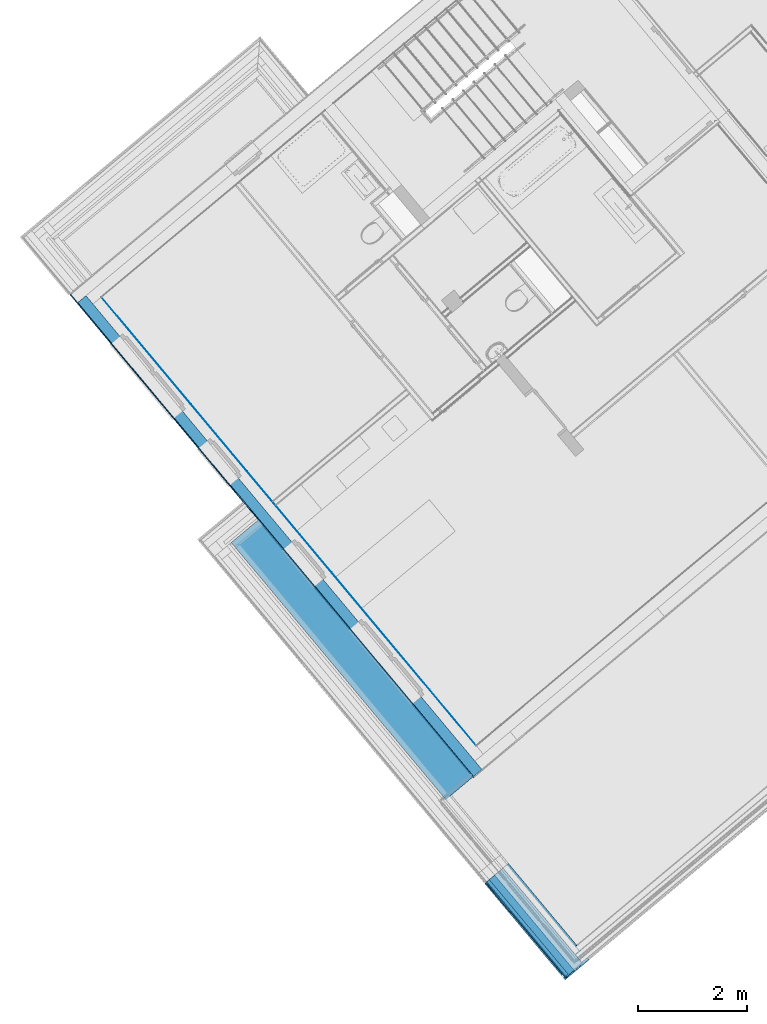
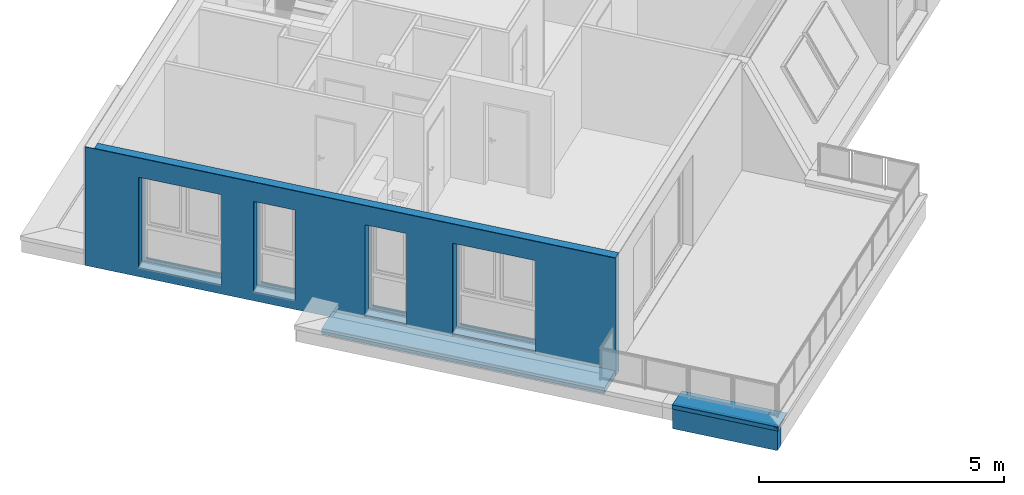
# One storey, part 14 of 58: 12 building element parts, 4 openings, 3 elements without a shape of their own.
"""IFC4 building model written with IfcOpenShell, lengths in metres."""

from ifc_helpers import new_model, entity, si_unit, converted_unit, derived_unit, direction, frame, origin_with_axes, place, context, subcontext, project, spatial, polygons, material, type_object, element, aggregate, save


model = new_model("IFC4")

# Units and contexts
model_context = context("Model", 3, precision=1e-05, world=origin_with_axes(), true_north=direction((0.0, 1.0)))
body_context = subcontext(model_context, "Body", "Model", "MODEL_VIEW")
ifc_project = project(units=[si_unit("LENGTHUNIT", "METRE"), si_unit("AREAUNIT", "SQUARE_METRE"), si_unit("VOLUMEUNIT", "CUBIC_METRE"), converted_unit("PLANEANGLEUNIT", "DEGREE", entity("IfcPlaneAngleMeasure", 0.0174532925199), si_unit("PLANEANGLEUNIT", "RADIAN"), dimensions=[0, 0, 0, 0, 0, 0, 0]), converted_unit("TIMEUNIT", "Year", entity("IfcTimeMeasure", 31556926.0), si_unit("TIMEUNIT", "SECOND"), dimensions=[0, 0, 1, 0, 0, 0, 0]), si_unit("MASSUNIT", "GRAM", prefix="KILO"), si_unit("THERMODYNAMICTEMPERATUREUNIT", "DEGREE_CELSIUS"), si_unit("LUMINOUSINTENSITYUNIT", "LUMEN"), si_unit("ENERGYUNIT", "JOULE", prefix="MEGA"), derived_unit("THERMALCONDUCTANCEUNIT", [(si_unit("POWERUNIT", "WATT"), 1), (si_unit("LENGTHUNIT", "METRE"), -1), (si_unit("THERMODYNAMICTEMPERATUREUNIT", "KELVIN"), -1)]), derived_unit("SPECIFICHEATCAPACITYUNIT", [(si_unit("ENERGYUNIT", "JOULE"), 1), (si_unit("MASSUNIT", "GRAM", prefix="KILO"), -1), (si_unit("THERMODYNAMICTEMPERATUREUNIT", "KELVIN"), -1)]), derived_unit("MASSDENSITYUNIT", [(si_unit("MASSUNIT", "GRAM", prefix="KILO"), 1), (si_unit("VOLUMEUNIT", "CUBIC_METRE"), -1)])], contexts=[model_context])

# Site, building, storey
site_placement = place(None, frame((-0.00153261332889, -0.00661245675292, 0.0), z_axis=(0.0, 0.0, 1.0), x_axis=(1.0, 0.0, 0.0)))
site = spatial("IfcSite", under=ifc_project, at=site_placement, Name="Site", CompositionType="ELEMENT")
building_placement = place(site_placement, origin_with_axes())
building = spatial("IfcBuilding", under=site, at=building_placement, Name="Building", CompositionType="ELEMENT")
storey_placement = place(building_placement, frame((0.0, 0.0, 5.7), z_axis=(0.0, 0.0, 1.0), x_axis=(1.0, 0.0, 0.0)))
storey = spatial("IfcBuildingStorey", under=building, at=storey_placement, Name="DG1", CompositionType="ELEMENT", Elevation=5.7)

# Wall, openings, building element parts
wall_type_1 = type_object("IfcWallType", Name="AW EG 420", PredefinedType="NOTDEFINED")
wall_1_placement = place(storey_placement, frame((-8.68307438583, 19.0183290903, 0.0), z_axis=(0.0, 0.0, 1.0), x_axis=(0.641209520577, -0.767365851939, 0.0)))
wall_1 = element("IfcWall", 1, at=wall_1_placement, inside=storey, type_object=wall_type_1, Name="Wand-002", PredefinedType="NOTDEFINED")
opening_1_placement = place(wall_1_placement, frame((6.56443580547, 0.0, 0.22), z_axis=(0.0, 0.0, 1.0), x_axis=(1.0, 0.0, 0.0)))
element("IfcOpeningElement", 2, at=opening_1_placement, cuts=wall_1, Name="Fenster-001", context=body_context, identifier="Reference", shape_type="Tessellation", body=[
    polygons([(0.45, 0.215, 0.0), (0.45, 0.215, 2.26), (0.45, -5.69878587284, 2.26), (0.45, -5.69878587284, 0.0), (0.45, 6.11878587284, 0.0), (0.45, 6.11878587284, 2.26), (-0.45, 0.215, 2.26), (-0.45, -5.69878587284, 2.26), (-0.45, 6.11878587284, 2.26), (-0.45, -5.69878587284, 0.0), (-0.45, 0.215, 0.0), (-0.45, 6.11878587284, 0.0)], [[[1, 2, 3, 4]], [[2, 1, 5, 6]], [[7, 8, 3, 2, 6, 9]], [[8, 10, 4, 3]], [[1, 4, 10, 11, 12, 5]], [[6, 5, 12, 9]], [[7, 11, 10, 8]], [[11, 7, 9, 12]]], closed=True),
])
opening_2_placement = place(wall_1_placement, frame((8.92445021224, 0.0, 0.22), z_axis=(0.0, 0.0, 1.0), x_axis=(1.0, 0.0, 0.0)))
element("IfcOpeningElement", 3, at=opening_2_placement, cuts=wall_1, Name="Fenster-001", context=body_context, identifier="Reference", shape_type="Tessellation", body=[
    polygons([(0.9, 0.215, 0.0), (0.9, 0.215, 2.26), (0.9, -5.69878587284, 2.26), (0.9, -5.69878587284, 0.0), (0.9, 6.11878587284, 0.0), (0.9, 6.11878587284, 2.26), (-0.9, 0.215, 2.26), (-0.9, -5.69878587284, 2.26), (-0.9, 6.11878587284, 2.26), (-0.9, -5.69878587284, 0.0), (-0.9, 0.215, 0.0), (-0.9, 6.11878587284, 0.0)], [[[1, 2, 3, 4]], [[2, 1, 5, 6]], [[7, 8, 3, 2, 6, 9]], [[8, 10, 4, 3]], [[1, 4, 10, 11, 12, 5]], [[6, 5, 12, 9]], [[7, 11, 10, 8]], [[11, 7, 9, 12]]], closed=True),
])
opening_3_placement = place(wall_1_placement, frame((4.13955898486, 0.0, 0.22), z_axis=(0.0, 0.0, 1.0), x_axis=(1.0, 0.0, 0.0)))
element("IfcOpeningElement", 4, at=opening_3_placement, cuts=wall_1, Name="Fenster-001", context=body_context, identifier="Reference", shape_type="Tessellation", body=[
    polygons([(0.45, 0.215, 0.0), (0.45, 0.215, 2.26), (0.45, -5.69878587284, 2.26), (0.45, -5.69878587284, 0.0), (0.45, 6.11878587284, 0.0), (0.45, 6.11878587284, 2.26), (-0.45, 0.215, 2.26), (-0.45, -5.69878587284, 2.26), (-0.45, 6.11878587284, 2.26), (-0.45, -5.69878587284, 0.0), (-0.45, 0.215, 0.0), (-0.45, 6.11878587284, 0.0)], [[[1, 2, 3, 4]], [[2, 1, 5, 6]], [[7, 8, 3, 2, 6, 9]], [[8, 10, 4, 3]], [[1, 4, 10, 11, 12, 5]], [[6, 5, 12, 9]], [[7, 11, 10, 8]], [[11, 7, 9, 12]]], closed=True),
])
opening_4_placement = place(wall_1_placement, frame((2.0854909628, 0.0, 0.22), z_axis=(0.0, 0.0, 1.0), x_axis=(1.0, 0.0, 0.0)))
element("IfcOpeningElement", 5, at=opening_4_placement, cuts=wall_1, Name="Fenster-001", context=body_context, identifier="Reference", shape_type="Tessellation", body=[
    polygons([(0.9, 0.215, 0.0), (0.9, 0.215, 2.26), (0.9, -5.69878587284, 2.26), (0.9, -5.69878587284, 0.0), (0.9, 6.11878587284, 0.0), (0.9, 6.11878587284, 2.26), (-0.9, 0.215, 2.26), (-0.9, -5.69878587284, 2.26), (-0.9, 6.11878587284, 2.26), (-0.9, -5.69878587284, 0.0), (-0.9, 0.215, 0.0), (-0.9, 6.11878587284, 0.0)], [[[1, 2, 3, 4]], [[2, 1, 5, 6]], [[7, 8, 3, 2, 6, 9]], [[8, 10, 4, 3]], [[1, 4, 10, 11, 12, 5]], [[6, 5, 12, 9]], [[7, 11, 10, 8]], [[11, 7, 9, 12]]], closed=True),
])
ifc_material_1 = material(Name="Zementputz")
building_element_part_1_placement = place(wall_1_placement, origin_with_axes())
building_element_part_1 = element("IfcBuildingElementPart", 6, at=building_element_part_1_placement, material=ifc_material_1, Name="Zementputz", PredefinedType="NOTDEFINED", context=body_context, shape_type="Tessellation", body=[
    polygons([(11.1645998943, 0.415, 2.76), (0.42, 0.415, 2.76), (0.42, 0.415, 0.0), (11.1645998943, 0.415, 0.0), (7.01443580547, 0.415, 0.22), (6.11443580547, 0.415, 0.22), (6.11443580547, 0.415, 2.48), (7.01443580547, 0.415, 2.48), (9.82445021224, 0.415, 2.48), (9.82445021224, 0.415, 0.22), (8.02445021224, 0.415, 0.22), (8.02445021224, 0.415, 2.48), (3.68955898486, 0.415, 2.48), (4.58955898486, 0.415, 2.48), (4.58955898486, 0.415, 0.22), (3.68955898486, 0.415, 0.22), (1.1854909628, 0.415, 0.22), (1.1854909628, 0.415, 2.48), (2.9854909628, 0.415, 2.48), (2.9854909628, 0.415, 0.22), (11.1645966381, 0.42, 2.76), (0.42, 0.42, 2.76), (0.42, 0.42, 0.0), (11.1645966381, 0.42, 0.0), (7.01443580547, 0.42, 0.22), (6.11443580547, 0.42, 0.22), (6.11443580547, 0.42, 2.48), (7.01443580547, 0.42, 2.48), (9.82445021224, 0.42, 2.48), (9.82445021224, 0.42, 0.22), (8.02445021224, 0.42, 0.22), (8.02445021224, 0.42, 2.48), (4.58955898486, 0.42, 2.48), (3.68955898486, 0.42, 2.48), (4.58955898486, 0.42, 0.22), (3.68955898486, 0.42, 0.22), (1.1854909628, 0.42, 0.22), (1.1854909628, 0.42, 2.48), (2.9854909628, 0.42, 2.48), (2.9854909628, 0.42, 0.22)], [[[1, 2, 3, 4], [5, 6, 7, 8], [9, 10, 11, 12], [13, 14, 15, 16], [17, 18, 19, 20]], [[1, 21, 22, 2]], [[2, 22, 23, 3]], [[24, 4, 3, 23]], [[21, 1, 4, 24]], [[5, 25, 26, 6]], [[6, 26, 27, 7]], [[7, 27, 28, 8]], [[8, 28, 25, 5]], [[10, 9, 29, 30]], [[11, 10, 30, 31]], [[12, 11, 31, 32]], [[9, 12, 32, 29]], [[33, 14, 13, 34]], [[35, 15, 14, 33]], [[36, 16, 15, 35]], [[34, 13, 16, 36]], [[37, 38, 18, 17]], [[38, 39, 19, 18]], [[39, 40, 20, 19]], [[40, 37, 17, 20]], [[22, 21, 24, 23], [27, 26, 25, 28], [29, 32, 31, 30], [35, 33, 34, 36], [37, 40, 39, 38]]], closed=True),
])
ifc_material_2 = material(Name="EPS 1")
building_element_part_2_placement = place(wall_1_placement, origin_with_axes())
building_element_part_2 = element("IfcBuildingElementPart", 7, at=building_element_part_2_placement, material=ifc_material_2, Name="EPS 1", PredefinedType="NOTDEFINED", context=body_context, shape_type="Tessellation", body=[
    polygons([(11.5648604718, 0.015, 0.0), (11.5648604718, 0.015, 2.96), (0.215, 0.015, 2.96), (0.215, 0.015, 0.0), (7.01443580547, 0.015, 0.22), (6.11443580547, 0.015, 0.22), (6.11443580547, 0.015, 2.48), (7.01443580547, 0.015, 2.48), (9.82445021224, 0.015, 2.48), (9.82445021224, 0.015, 0.22), (8.02445021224, 0.015, 0.22), (8.02445021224, 0.015, 2.48), (3.68955898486, 0.015, 2.48), (4.58955898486, 0.015, 2.48), (4.58955898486, 0.015, 0.22), (3.68955898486, 0.015, 0.22), (1.1854909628, 0.015, 0.22), (1.1854909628, 0.015, 2.48), (2.9854909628, 0.015, 2.48), (2.9854909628, 0.015, 0.22), (11.5647302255, 0.215, 0.0), (11.5647302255, 0.215, 2.96), (0.215, 0.215, 2.96), (0.215, 0.215, 0.0), (7.01443580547, 0.215, 0.22), (6.11443580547, 0.215, 0.22), (6.11443580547, 0.215, 2.48), (7.01443580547, 0.215, 2.48), (9.82445021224, 0.215, 2.48), (9.82445021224, 0.215, 0.22), (8.02445021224, 0.215, 0.22), (8.02445021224, 0.215, 2.48), (4.58955898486, 0.215, 2.48), (3.68955898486, 0.215, 2.48), (4.58955898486, 0.215, 0.22), (3.68955898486, 0.215, 0.22), (1.1854909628, 0.215, 0.22), (1.1854909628, 0.215, 2.48), (2.9854909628, 0.215, 2.48), (2.9854909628, 0.215, 0.22)], [[[1, 2, 3, 4], [5, 6, 7, 8], [9, 10, 11, 12], [13, 14, 15, 16], [17, 18, 19, 20]], [[1, 21, 22, 2]], [[2, 22, 23, 3]], [[23, 24, 4, 3]], [[21, 1, 4, 24]], [[5, 25, 26, 6]], [[6, 26, 27, 7]], [[7, 27, 28, 8]], [[8, 28, 25, 5]], [[10, 9, 29, 30]], [[11, 10, 30, 31]], [[12, 11, 31, 32]], [[9, 12, 32, 29]], [[33, 14, 13, 34]], [[35, 15, 14, 33]], [[36, 16, 15, 35]], [[34, 13, 16, 36]], [[37, 38, 18, 17]], [[38, 39, 19, 18]], [[39, 40, 20, 19]], [[40, 37, 17, 20]], [[22, 21, 24, 23], [27, 26, 25, 28], [29, 32, 31, 30], [35, 33, 34, 36], [37, 40, 39, 38]]], closed=True),
])
building_element_part_3_placement = place(wall_1_placement, origin_with_axes())
building_element_part_3 = element("IfcBuildingElementPart", 8, at=building_element_part_3_placement, material=ifc_material_1, Name="Zementputz", PredefinedType="NOTDEFINED", context=body_context, shape_type="Tessellation", body=[
    polygons([(7.01443580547, 0.0, 2.48), (7.01443580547, 0.0, 0.22), (7.01443580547, 0.0, 0.15), (8.02445021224, 0.0, 0.15), (8.02445021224, 0.0, 0.22), (8.02445021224, 0.0, 2.48), (9.82445021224, 0.0, 2.48), (9.82445021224, 0.0, 0.22), (9.82445021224, 0.0, 0.15), (11.5798702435, 0.0, 0.15), (11.5798702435, 0.0, 2.96), (0.015, 0.0, 2.96), (0.015, 0.0, 0.0), (5.41075109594, 0.0, 0.0), (5.41075109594, 0.0, 0.15), (6.11443580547, 0.0, 0.15), (6.11443580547, 0.0, 0.22), (6.11443580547, 0.0, 2.48), (3.68955898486, 0.0, 2.48), (4.58955898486, 0.0, 2.48), (4.58955898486, 0.0, 0.22), (3.68955898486, 0.0, 0.22), (1.1854909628, 0.0, 0.22), (1.1854909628, 0.0, 2.48), (2.9854909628, 0.0, 2.48), (2.9854909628, 0.0, 0.22), (7.01443580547, 0.0150000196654, 2.48), (7.01443580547, 0.0150000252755, 0.22), (7.01443580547, 0.0150000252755, 0.15), (8.02445021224, 0.0150000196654, 0.15), (8.02445021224, 0.0150000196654, 0.22), (8.02445021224, 0.0150000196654, 2.48), (9.82445021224, 0.0150000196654, 2.48), (9.82445021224, 0.0150000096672, 0.22), (9.82445021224, 0.0150000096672, 0.15), (11.579860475, 0.015, 0.15), (11.579860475, 0.015, 2.96), (0.015, 0.015, 2.96), (0.015, 0.015, 0.0), (5.41078870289, 0.0150000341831, 0.0), (5.41078870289, 0.0150000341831, 0.15), (6.11443580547, 0.0150000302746, 0.15), (6.11443580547, 0.0150000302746, 0.22), (6.11443580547, 0.0150000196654, 2.48), (4.58955898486, 0.0150000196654, 2.48), (3.68955898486, 0.0150000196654, 2.48), (4.58955898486, 0.0150000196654, 0.22), (3.68955898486, 0.0150000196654, 0.22), (1.1854909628, 0.0150000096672, 0.22), (1.1854909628, 0.0150000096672, 2.48), (2.9854909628, 0.0150000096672, 2.48), (2.9854909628, 0.0150000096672, 0.22)], [[[1, 2, 3, 4, 5, 6, 7, 8, 9, 10, 11, 12, 13, 14, 15, 16, 17, 18], [19, 20, 21, 22], [23, 24, 25, 26]], [[1, 27, 28, 2]], [[3, 2, 28, 29]], [[30, 4, 3, 29]], [[4, 30, 31, 5]], [[6, 5, 31, 32]], [[7, 6, 32, 33]], [[8, 7, 33, 34]], [[35, 9, 8, 34]], [[9, 35, 36, 10]], [[10, 36, 37, 11]], [[11, 37, 38, 12]], [[38, 39, 13, 12]], [[40, 14, 13, 39]], [[41, 15, 14, 40]], [[42, 16, 15, 41]], [[42, 43, 17, 16]], [[17, 43, 44, 18]], [[18, 44, 27, 1]], [[45, 20, 19, 46]], [[47, 21, 20, 45]], [[48, 22, 21, 47]], [[46, 19, 22, 48]], [[49, 50, 24, 23]], [[50, 51, 25, 24]], [[51, 52, 26, 25]], [[52, 49, 23, 26]], [[38, 37, 36, 35, 34, 33, 32, 31, 30, 29, 28, 27, 44, 43, 42, 41, 40, 39], [47, 45, 46, 48], [49, 52, 51, 50]]], closed=True),
])
aggregate(wall_1, [building_element_part_1, building_element_part_2, building_element_part_3])

# Wall, building element parts
wall_type_2 = type_object("IfcWallType", Name="Balkon Dämmung runter 574 x 610", PredefinedType="NOTDEFINED")
wall_2_placement = place(storey_placement, frame((-0.869246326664, 8.34153645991, -0.2), z_axis=(0.0, 0.0, 1.0), x_axis=(0.640952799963, -0.767580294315, 0.0)))
wall_2 = element("IfcWall", 9, at=wall_2_placement, inside=storey, type_object=wall_type_2, Name="Wand-004", PredefinedType="NOTDEFINED")
ifc_material_3 = material(Name="Stahl")
building_element_part_4_placement = place(wall_2_placement, origin_with_axes())
building_element_part_4 = element("IfcBuildingElementPart", 10, at=building_element_part_4_placement, material=ifc_material_3, Name="Stahl", PredefinedType="NOTDEFINED", context=body_context, shape_type="Tessellation", body=[
    polygons([(2.31177297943, -0.241500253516, 0.575979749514), (2.31177213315, -0.241500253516, 0.510056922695), (2.31177113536, -0.239536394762, 0.510056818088), (2.31177146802, -0.238182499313, 0.511410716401), (2.3117723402, -0.240097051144, 0.511410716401), (2.31177158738, -0.240146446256, 0.51136132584), (2.31177236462, -0.240150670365, 0.575979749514), (2.31172276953, -0.241500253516, 0.510007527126), (2.31042339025, -0.241500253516, 0.575979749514), (2.25910484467, -0.241500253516, 0.575979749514), (2.19919057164, -0.241500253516, 0.575979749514), (2.19919057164, -0.241500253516, 0.57982217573), (2.19919057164, -0.241500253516, 0.581921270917), (2.25907296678, -0.241500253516, 0.581921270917), (2.31042377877, -0.241500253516, 0.581921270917), (2.31177297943, -0.241500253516, 0.581921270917), (2.31177297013, -0.241500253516, 0.608602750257), (2.31042551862, -0.241500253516, 0.608602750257), (2.30915944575, -0.241500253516, 0.608602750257), (2.31042552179, -0.241500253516, 0.60865214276), (2.31177297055, -0.241500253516, 0.60865214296), (2.31177298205, -0.241500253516, 0.610006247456), (-8.02066887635e-05, -0.241500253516, 0.610006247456), (-8.02066887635e-05, -0.241500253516, 0.510007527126), (2.3108152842, -0.240592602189, 0.509099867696), (2.31081523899, -0.240493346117, 0.509099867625), (2.28406254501, -0.240493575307, 0.509099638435), (2.28406256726, -0.240542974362, 0.509050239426), (-8.02066887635e-05, -0.240542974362, 0.509050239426), (-8.02066887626e-05, -0.231373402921, 0.518219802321), (2.3036054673, -0.23137340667, 0.518219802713), (2.31041765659, -0.238182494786, 0.511410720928), (2.31041852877, -0.240097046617, 0.511410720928), (-8.02066887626e-05, -0.232283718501, 0.519224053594), (-8.02066887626e-05, -0.240146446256, 0.51136132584), (2.30260163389, -0.23228372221, 0.519224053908), (2.19918995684, -0.240150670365, 0.575979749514), (2.25910422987, -0.240150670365, 0.575979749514), (2.31042277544, -0.240150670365, 0.575979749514), (-8.02066887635e-05, -0.240152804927, 0.608602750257), (2.30915883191, -0.240152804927, 0.608602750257), (2.31042490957, -0.240152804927, 0.608602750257), (2.31177219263, -0.240152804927, 0.608602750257), (2.3117723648, -0.240151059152, 0.581921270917), (2.31042316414, -0.240151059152, 0.581921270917), (2.25907235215, -0.240151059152, 0.581921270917), (2.19918995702, -0.240151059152, 0.581921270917), (2.19918995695, -0.240150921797, 0.57982217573), (2.30914178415, -0.202730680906, 0.608602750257), (2.31040848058, -0.204095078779, 0.60865214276), (2.31175593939, -0.204095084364, 0.60865214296), (2.30832403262, -0.201849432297, 0.608570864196), (1.95664024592, 0.149654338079, 0.5958462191), (1.95655714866, 0.332051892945, 0.589243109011), (0.000110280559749, 0.332051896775, 0.589243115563), (-6.78303214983e-05, -0.239287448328, 0.608571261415), (2.28406258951, -0.240592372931, 0.509099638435), (2.30834108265, -0.239276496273, 0.608570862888), (1.95665729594, 0.11222723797, 0.5958462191), (1.95655776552, 0.330698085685, 0.587937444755), (1.95655714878, 0.332051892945, 0.587937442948), (0.000110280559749, 0.332051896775, 0.489652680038), (1.95655714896, 0.332051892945, 0.586106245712), (1.95655714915, 0.332051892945, 0.584015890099), (1.95655714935, 0.332051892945, 0.581921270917), (1.95655714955, 0.332051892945, 0.579822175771), (1.95655714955, 0.332051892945, 0.575979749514), (1.95655714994, 0.332051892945, 0.575576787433), (1.95655715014, 0.332051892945, 0.573880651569), (1.95655715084, 0.332051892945, 0.567947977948), (1.9565571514, 0.332051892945, 0.560000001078), (1.95655715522, 0.332051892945, 0.519273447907), (1.95655715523, 0.332051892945, 0.519224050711), (1.95655715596, 0.332051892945, 0.511410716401), (1.95655715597, 0.332051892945, 0.51136132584), (1.95655715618, 0.332051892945, 0.509099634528), (1.95655715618, 0.332051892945, 0.509050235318), (1.9565571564, 0.332051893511, 0.506731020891), (1.95655715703, 0.332051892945, 0.499999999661), (1.95655715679, 0.332051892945, 0.498915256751), (1.95847171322, 0.332051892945, 0.498915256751), (1.95837870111, 0.332051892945, 0.498822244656), (1.95616062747, 0.332051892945, 0.496604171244), (1.96880428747, 0.332051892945, 0.496604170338), (1.96880428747, 0.332051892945, 0.491006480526), (1.96880428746, 0.33205189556, 0.489652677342), (0.000106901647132, 0.321878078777, 0.497911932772), (0.000107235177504, 0.32288233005, 0.498822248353), (0.000109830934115, 0.330698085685, 0.491006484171), (0.000109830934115, 0.330698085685, 0.587937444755), (0.000109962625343, 0.331094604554, 0.488695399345), (1.95655776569, 0.330698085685, 0.586106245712), (1.95655776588, 0.330698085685, 0.584015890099), (1.95655776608, 0.330698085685, 0.581921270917), (1.95655776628, 0.330698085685, 0.579822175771), (1.95655776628, 0.330698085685, 0.575979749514), (1.95655776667, 0.330698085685, 0.575576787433), (1.95655776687, 0.330698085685, 0.573880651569), (1.95655776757, 0.330698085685, 0.567947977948), (1.95655776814, 0.330698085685, 0.560000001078), (1.95655777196, 0.330698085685, 0.519273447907), (1.95655777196, 0.330698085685, 0.519224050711), (1.95655777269, 0.330698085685, 0.511410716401), (1.9565577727, 0.330698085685, 0.51136132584), (1.95655777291, 0.330698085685, 0.509099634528), (1.95655777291, 0.330698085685, 0.509050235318), (1.95655777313, 0.330698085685, 0.506731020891), (1.95655777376, 0.330698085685, 0.499999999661), (1.95655777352, 0.330698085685, 0.498915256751), (1.95847232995, 0.330698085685, 0.498915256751), (1.95837931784, 0.330698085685, 0.498822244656), (1.9561612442, 0.330698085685, 0.496604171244), (1.9688049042, 0.330698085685, 0.496604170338), (1.9688049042, 0.330698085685, 0.491006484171), (1.96880577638, 0.328783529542, 0.491006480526), (1.96880472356, 0.331094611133, 0.488695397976), (1.96880892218, 0.32187807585, 0.497911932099), (1.96880846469, 0.322882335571, 0.498822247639), (1.96880745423, 0.325100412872, 0.496604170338), (1.96880832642, 0.323185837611, 0.496604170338)], [[[1, 2, 3, 4, 5, 6, 7]], [[8, 2, 1, 9, 10, 11, 12, 13, 14, 15, 16, 17, 18, 19, 20, 21, 22, 23, 24]], [[2, 8, 25, 26, 3]], [[27, 28, 29, 30, 31, 32, 4, 3, 26]], [[5, 4, 32, 33]], [[34, 35, 6, 5, 33, 36]], [[37, 38, 39, 7, 6, 35, 40, 41, 42, 43, 44, 45, 46, 47, 48]], [[9, 1, 7, 39]], [[10, 9, 39, 38]], [[11, 10, 38, 37]], [[37, 48, 12, 11]], [[13, 12, 48, 47]], [[14, 13, 47, 46]], [[15, 14, 46, 45]], [[16, 15, 45, 44]], [[17, 16, 44, 43]], [[18, 17, 43, 42]], [[19, 18, 42, 41]], [[19, 41, 49, 50, 20]], [[21, 20, 50, 51]], [[22, 21, 51]], [[23, 22, 51, 50, 49, 52, 53, 54, 55]], [[29, 24, 23, 56, 40, 35, 34, 30]], [[28, 57, 25, 8, 24, 29]], [[57, 27, 26, 25]], [[57, 28, 27]], [[30, 34, 36, 31]], [[33, 32, 31, 36]], [[58, 41, 40, 56]], [[41, 58, 52, 49]], [[52, 58, 59, 53]], [[53, 59, 60, 61, 54]], [[62, 55, 54, 61, 63, 64, 65, 66, 67, 68, 69, 70, 71, 72, 73, 74, 75, 76, 77, 78, 79, 80, 81, 82, 83, 84, 85, 86]], [[87, 88, 89, 90, 56, 23, 55, 62, 91]], [[58, 56, 90, 60, 59]], [[60, 92, 63, 61]], [[92, 93, 64, 63]], [[93, 94, 65, 64]], [[94, 95, 66, 65]], [[95, 96, 67, 66]], [[96, 97, 68, 67]], [[97, 98, 69, 68]], [[98, 99, 70, 69]], [[99, 100, 71, 70]], [[100, 101, 72, 71]], [[101, 102, 73, 72]], [[102, 103, 74, 73]], [[103, 104, 75, 74]], [[104, 105, 76, 75]], [[105, 106, 77, 76]], [[106, 107, 78, 77]], [[107, 108, 79, 78]], [[108, 109, 80, 79]], [[80, 109, 110, 81]], [[110, 111, 82, 81]], [[112, 83, 82, 111]], [[83, 112, 113, 84]], [[114, 85, 84, 113]], [[114, 115, 116, 86, 85]], [[91, 62, 86, 116]], [[88, 87, 117, 118]], [[89, 88, 118, 119, 114]], [[90, 89, 114, 113, 112, 111, 110, 109, 108, 107, 106, 105, 104, 103, 102, 101, 100, 99, 98, 97, 96, 95, 94, 93, 92, 60]], [[87, 91, 116, 115, 120, 117]], [[115, 114, 119, 120]], [[120, 119, 118, 117]]], closed=True),
])
ifc_material_4 = material(Name="Holzwerkstoff")
building_element_part_5_placement = place(wall_2_placement, origin_with_axes())
building_element_part_5 = element("IfcBuildingElementPart", 11, at=building_element_part_5_placement, material=ifc_material_4, Name="Holzwerkstoff", PredefinedType="NOTDEFINED", context=body_context, shape_type="Tessellation", body=[
    polygons([(-6.30974915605e-05, -0.189984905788, 0.586106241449), (-8.02066887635e-05, -0.239999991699, 0.587852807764), (-8.02066887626e-05, -0.239276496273, 0.608570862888), (0.000109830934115, 0.330698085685, 0.587937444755), (0.000109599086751, 0.329999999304, 0.567947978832), (5.31755593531e-05, 0.160110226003, 0.573880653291), (3.32118436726e-05, 0.0999999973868, 0.575979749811), (-4.32169065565e-05, -0.130124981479, 0.584015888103), (2.25902712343, -0.189985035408, 0.586106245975), (2.30906485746, -0.239999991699, 0.587852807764), (2.30906195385, -0.239997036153, 0.587937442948), (2.30878564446, -0.239720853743, 0.595846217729), (2.30834108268, -0.239276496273, 0.608570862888), (2.30862531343, 0.112227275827, 0.595846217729), (2.30880197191, 0.330698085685, 0.587937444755), (2.30880492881, 0.330695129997, 0.587852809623), (2.2587899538, 0.330634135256, 0.586106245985), (2.19892996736, 0.330561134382, 0.584015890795), (2.13894792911, 0.330487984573, 0.581921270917), (2.07883772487, 0.330414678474, 0.579822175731), (1.96880500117, 0.330280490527, 0.575979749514), (1.95726578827, 0.330266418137, 0.575576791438), (2.07886140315, 0.33026641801, 0.575576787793), (2.07887086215, 0.330207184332, 0.573880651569), (2.07890394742, 0.329999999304, 0.567947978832), (2.07894835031, 0.160110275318, 0.573880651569), (2.07896104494, 0.111539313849, 0.575576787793), (1.95736543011, 0.111539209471, 0.575576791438), (1.96890990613, 0.100000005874, 0.575979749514), (2.0789928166, -0.0100327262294, 0.579822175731), (2.13913043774, -0.0701429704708, 0.581921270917), (2.19913983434, -0.130125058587, 0.584015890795)], [[[1, 2, 3, 4, 5, 6, 7, 8]], [[9, 10, 2, 1]], [[10, 11, 12, 13, 3, 2]], [[3, 13, 14, 15, 4]], [[5, 4, 15, 16, 17, 18, 19, 20, 21, 22, 23, 24, 25]], [[6, 5, 25, 26]], [[7, 6, 26, 27, 28, 29]], [[8, 7, 29, 30, 31, 32]], [[9, 1, 8, 32]], [[10, 9, 17, 16]], [[11, 10, 16, 15]], [[12, 11, 15, 14]], [[12, 14, 13]], [[9, 32, 18, 17]], [[32, 31, 19, 18]], [[31, 30, 20, 19]], [[30, 29, 21, 20]], [[29, 28, 22, 21]], [[28, 27, 23, 22]], [[27, 26, 24, 23]], [[26, 25, 24]]], closed=True),
])
ifc_material_5 = material(Name="Brettschichtholz")
building_element_part_6_placement = place(wall_2_placement, origin_with_axes())
building_element_part_6 = element("IfcBuildingElementPart", 12, at=building_element_part_6_placement, material=ifc_material_5, Name="Brettschichtholz", PredefinedType="NOTDEFINED", context=body_context, shape_type="Tessellation", body=[
    polygons([(-7.14054555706e-05, -0.214999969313, 0.499999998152), (-7.14054555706e-05, -0.214999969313, 0.509050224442), (-7.14054596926e-05, -0.214999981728, 0.560000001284), (-6.31440121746e-05, -0.190124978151, 0.560000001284), (-4.32169069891e-05, -0.130124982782, 0.560000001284), (3.32118462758e-05, 0.100000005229, 0.560000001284), (5.31389514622e-05, 0.160000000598, 0.560000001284), (6.64236901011e-05, 0.200000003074, 0.560000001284), (6.64236873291e-05, 0.199999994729, 0.500000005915), (2.28405351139, -0.214999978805, 0.500000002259), (2.28405351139, -0.214999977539, 0.509099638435), (2.28405350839, -0.214999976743, 0.51136132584), (2.28405350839, -0.214999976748, 0.511410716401), (2.28405350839, -0.214999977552, 0.519224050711), (2.28405350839, -0.214999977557, 0.519273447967), (2.28405350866, -0.21499998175, 0.560000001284), (2.28404217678, -0.190124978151, 0.560000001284), (2.2840148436, -0.130124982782, 0.560000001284), (2.28391000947, 0.100000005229, 0.560000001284), (2.28388267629, 0.160000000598, 0.560000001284), (2.28386445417, 0.200000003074, 0.560000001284), (2.2838644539, 0.19999999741, 0.519273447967), (2.2838644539, 0.199999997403, 0.519224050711), (2.2838644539, 0.199999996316, 0.511410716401), (2.2838644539, 0.199999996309, 0.51136132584), (2.28386445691, 0.199999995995, 0.509099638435), (2.28386445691, 0.199999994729, 0.500000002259)], [[[1, 2, 3, 4, 5, 6, 7, 8, 9]], [[2, 1, 10, 11, 12, 13, 14, 15, 16, 3]], [[3, 16, 17, 4]], [[5, 4, 17, 18]], [[6, 5, 18, 19]], [[7, 6, 19, 20]], [[8, 7, 20, 21]], [[9, 8, 21, 22, 23, 24, 25, 26, 27]], [[10, 1, 9, 27]], [[11, 10, 27, 26]], [[12, 11, 26, 25]], [[12, 25, 24, 13]], [[14, 13, 24, 23]], [[15, 14, 23, 22]], [[16, 15, 22, 21, 20, 19, 18, 17]]], closed=True),
])
building_element_part_7_placement = place(wall_2_placement, origin_with_axes())
building_element_part_7 = element("IfcBuildingElementPart", 13, at=building_element_part_7_placement, material=ifc_material_2, Name="EPS 1", PredefinedType="NOTDEFINED", context=body_context, shape_type="Tessellation", body=[
    polygons([(0.0, -6.04659078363e-09, 0.2), (0.0, -2.90217805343e-09, 0.500000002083), (2.2839555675, -2.90217982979e-09, 0.500000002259), (2.28395556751, -2.73519074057e-09, 0.200000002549), (-6.6423675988e-05, -0.19999996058, 0.499999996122), (-6.64236759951e-05, -0.1999999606, 0.2), (2.28404667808, -0.19999996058, 0.500000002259), (2.28404667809, -0.19999996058, 0.0), (2.28395556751, -2.90217894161e-09, 0.0), (0.0, -6.0465916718e-09, 0.0), (0.0, -0.199999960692, 0.200000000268), (0.0, -0.19999996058, 0.0)], [[[1, 2, 3, 4]], [[5, 2, 1, 6]], [[2, 5, 7, 3]], [[4, 3, 7, 8, 9]], [[10, 1, 4, 9]], [[6, 1, 11]], [[5, 6, 11, 12, 8, 7]], [[12, 10, 9, 8]], [[1, 10, 12, 11]]], closed=True),
])
ifc_material_6 = material(Name="Vollholz")
building_element_part_8_placement = place(wall_2_placement, origin_with_axes())
building_element_part_8 = element("IfcBuildingElementPart", 14, at=building_element_part_8_placement, material=ifc_material_6, Name="Vollholz", PredefinedType="NOTDEFINED", context=body_context, shape_type="Tessellation", body=[
    polygons([(2.25902712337, -0.189984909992, 0.586106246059), (2.25901099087, -0.130124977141, 0.584015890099), (-4.32169051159e-05, -0.130124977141, 0.584015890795), (-6.3097492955e-05, -0.189984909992, 0.586106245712), (2.25903826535, -0.189996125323, 0.584015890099), (2.25902222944, -0.130124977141, 0.581921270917), (2.19913983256, -0.130124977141, 0.581921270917), (2.1391577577, -0.130124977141, 0.581921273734), (2.1391577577, -0.130124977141, 0.57982217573), (2.1391577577, -0.130124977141, 0.575979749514), (2.19913983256, -0.130124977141, 0.575979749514), (2.2590541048, -0.130124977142, 0.575979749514), (2.25905626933, -0.130124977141, 0.575576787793), (2.25906536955, -0.130124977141, 0.573880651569), (2.25909719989, -0.130124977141, 0.567947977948), (2.25913984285, -0.130124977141, 0.560000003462), (-4.32169051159e-05, -0.130124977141, 0.560000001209), (-6.31440118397e-05, -0.190124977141, 0.560000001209), (2.25916717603, -0.190124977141, 0.560000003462), (2.25912451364, -0.19008233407, 0.567947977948), (2.2590926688, -0.190050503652, 0.573880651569), (2.25908356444, -0.190041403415, 0.575576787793), (2.25908139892, -0.190039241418, 0.575979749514), (2.19916712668, -0.190039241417, 0.575979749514), (2.13918505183, -0.190039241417, 0.575979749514), (2.13918504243, -0.190018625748, 0.57982217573), (2.1391850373, -0.190007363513, 0.581921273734), (2.19916711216, -0.190007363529, 0.581921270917), (2.25904950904, -0.190007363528, 0.581921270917)], [[[1, 2, 3, 4]], [[5, 2, 1]], [[2, 6, 7, 8, 9, 10, 11, 12, 13, 14, 15, 16, 17, 3]], [[18, 4, 3, 17]], [[5, 1, 4, 18, 19, 20, 21, 22, 23, 24, 25, 26, 27, 28, 29]], [[2, 5, 29, 6]], [[6, 29, 28, 7]], [[8, 7, 28, 27]], [[9, 8, 27, 26]], [[9, 26, 25, 10]], [[24, 11, 10, 25]], [[11, 24, 23, 12]], [[12, 23, 22, 13]], [[13, 22, 21, 14]], [[14, 21, 20, 15]], [[15, 20, 19, 16]], [[16, 19, 18, 17]]], closed=True),
])
building_element_part_9_placement = place(wall_2_placement, origin_with_axes())
building_element_part_9 = element("IfcBuildingElementPart", 15, at=building_element_part_9_placement, material=ifc_material_1, Name="Zementputz", PredefinedType="NOTDEFINED", context=body_context, shape_type="Tessellation", body=[
    polygons([(-6.64236770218e-05, -0.19999996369, 0.2), (-6.642367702e-05, -0.19999996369, 0.499999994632), (2.28404667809, -0.19999996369, 0.500000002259), (2.28404667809, -0.19999996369, 0.0), (0.0, -0.19999996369, 0.0), (0.0, -0.19999996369, 0.200000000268), (-7.14054555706e-05, -0.214999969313, 0.499999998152), (-7.14054555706e-05, -0.214999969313, 0.2), (2.28405351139, -0.214999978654, 0.500000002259), (2.28405351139, -0.214999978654, 0.0), (0.0, -0.214999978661, 0.0), (0.0, -0.214999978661, 0.200000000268)], [[[1, 2, 3, 4, 5, 6]], [[7, 2, 1, 8]], [[2, 7, 9, 3]], [[4, 3, 9, 10]], [[11, 5, 4, 10]], [[6, 5, 11, 12]], [[8, 1, 6, 12]], [[7, 8, 12, 11, 10, 9]]], closed=True),
])
aggregate(wall_2, [building_element_part_4, building_element_part_5, building_element_part_6, building_element_part_7, building_element_part_8, building_element_part_9])

# Covering, building element parts
covering_type = type_object("IfcCoveringType", Name="Balkon vor Terrasse Kies 220", PredefinedType="NOTDEFINED")
covering_placement = place(storey_placement, frame((-1.76593456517, 9.72776171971, 0.0), z_axis=(0.0, 0.0, 1.0), x_axis=(1.0, 0.0, 0.0)))
covering = element("IfcCovering", 16, at=covering_placement, inside=storey, type_object=covering_type, Name="Decke-005", PredefinedType="NOTDEFINED")
ifc_material_7 = material(Name="Sperrschicht")
building_element_part_10_placement = place(covering_placement, origin_with_axes())
building_element_part_10 = element("IfcBuildingElementPart", 17, at=building_element_part_10_placement, material=ifc_material_7, Name="Sperrschicht", PredefinedType="NOTDEFINED", context=body_context, shape_type="Tessellation", body=[
    polygons([(0.509869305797, 0.425706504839, 0.135), (0.509869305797, 0.425706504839, 0.15), (0.0, 0.0, 0.15), (0.0, 0.0, 0.135), (-3.43618007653, 5.14813105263, 0.135), (-3.43618007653, 5.14813105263, 0.15), (-3.94509461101, 4.72504524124, 0.15), (-3.94509461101, 4.72504524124, 0.135)], [[[1, 2, 3, 4]], [[5, 6, 2, 1]], [[3, 2, 6, 7]], [[4, 3, 7, 8]], [[4, 8, 5, 1]], [[8, 7, 6, 5]]], closed=True),
])
ifc_material_8 = material(Name="XPS")
building_element_part_11_placement = place(covering_placement, origin_with_axes())
building_element_part_11 = element("IfcBuildingElementPart", 18, at=building_element_part_11_placement, material=ifc_material_8, Name="XPS", PredefinedType="NOTDEFINED", context=body_context, shape_type="Tessellation", body=[
    polygons([(0.509869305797, 0.425706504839, 0.005), (0.509869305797, 0.425706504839, 0.135), (0.0, 0.0, 0.135), (0.0, 0.0, 0.005), (-3.43618007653, 5.14813105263, 0.005), (-3.43618007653, 5.14813105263, 0.135), (-3.94509461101, 4.72504524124, 0.135), (-3.94509461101, 4.72504524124, 0.005)], [[[1, 2, 3, 4]], [[5, 6, 2, 1]], [[3, 2, 6, 7]], [[4, 3, 7, 8]], [[4, 8, 5, 1]], [[8, 7, 6, 5]]], closed=True),
])
building_element_part_12_placement = place(covering_placement, origin_with_axes())
building_element_part_12 = element("IfcBuildingElementPart", 19, at=building_element_part_12_placement, material=ifc_material_7, Name="Sperrschicht", PredefinedType="NOTDEFINED", context=body_context, shape_type="Tessellation", body=[
    polygons([(0.0, 0.0, 0.0), (0.509869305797, 0.425706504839, 0.0), (0.509869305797, 0.425706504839, 0.005), (0.0, 0.0, 0.005), (-3.94509461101, 4.72504524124, 0.0), (-3.43618007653, 5.14813105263, 0.0), (-3.43618007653, 5.14813105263, 0.005), (-3.94509461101, 4.72504524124, 0.005)], [[[1, 2, 3, 4]], [[1, 5, 6, 2]], [[2, 6, 7, 3]], [[4, 3, 7, 8]], [[5, 1, 4, 8]], [[6, 5, 8, 7]]], closed=True),
])
aggregate(covering, [building_element_part_10, building_element_part_11, building_element_part_12])

save(model, "model.ifc")
